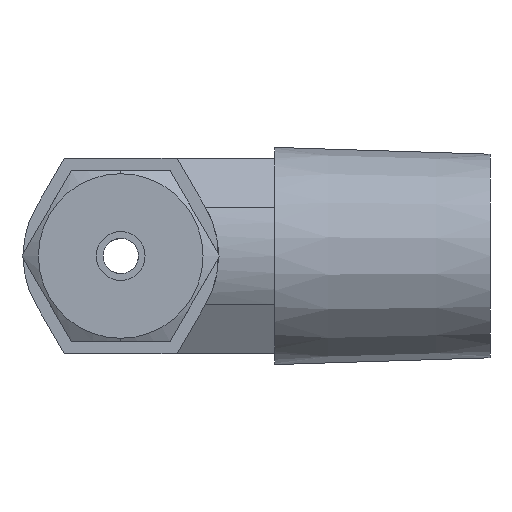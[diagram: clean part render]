
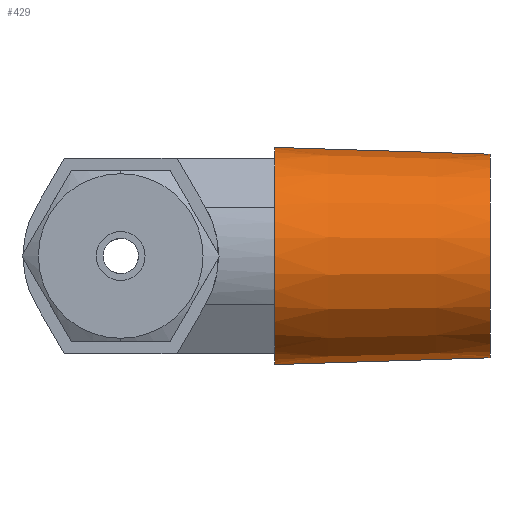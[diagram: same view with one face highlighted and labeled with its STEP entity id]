
A CAD part, left-side view. The second image highlights one B-rep face of the part: STEP entity #429.
In plain terms, the highlighted conical face has half-angle 1.8 degrees and reference radius 6.8 mm.
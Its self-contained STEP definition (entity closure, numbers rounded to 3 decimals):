
#325 = EDGE_CURVE ( 'NONE', #385, #589, #1299, .T. ) ;
#374 = ORIENTED_EDGE ( 'NONE', *, *, #375, .F. ) ;
#375 = EDGE_CURVE ( 'NONE', #431, #376, #1368, .T. ) ;
#376 = VERTEX_POINT ( 'NONE', #1420 ) ;
#377 = ORIENTED_EDGE ( 'NONE', *, *, #378, .T. ) ;
#378 = EDGE_CURVE ( 'NONE', #431, #379, #1419, .T. ) ;
#379 = VERTEX_POINT ( 'NONE', #1415 ) ;
#380 = ORIENTED_EDGE ( 'NONE', *, *, #381, .T. ) ;
#381 = EDGE_CURVE ( 'NONE', #379, #382, #1414, .T. ) ;
#382 = VERTEX_POINT ( 'NONE', #1409 ) ;
#383 = ORIENTED_EDGE ( 'NONE', *, *, #384, .T. ) ;
#384 = EDGE_CURVE ( 'NONE', #382, #385, #1408, .T. ) ;
#385 = VERTEX_POINT ( 'NONE', #1403 ) ;
#386 = ORIENTED_EDGE ( 'NONE', *, *, #325, .T. ) ;
#429 = ADVANCED_FACE ( 'NONE', ( #1491 ), #1489, .T. ) ;
#430 = EDGE_LOOP ( 'NONE', ( #374, #377, #380, #383, #386, #590, #593, #596 ) ) ;
#431 = VERTEX_POINT ( 'NONE', #1490 ) ;
#589 = VERTEX_POINT ( 'NONE', #1880 ) ;
#590 = ORIENTED_EDGE ( 'NONE', *, *, #591, .T. ) ;
#591 = EDGE_CURVE ( 'NONE', #589, #592, #1879, .T. ) ;
#592 = VERTEX_POINT ( 'NONE', #1935 ) ;
#593 = ORIENTED_EDGE ( 'NONE', *, *, #594, .T. ) ;
#594 = EDGE_CURVE ( 'NONE', #592, #595, #1934, .T. ) ;
#595 = VERTEX_POINT ( 'NONE', #1929 ) ;
#596 = ORIENTED_EDGE ( 'NONE', *, *, #597, .F. ) ;
#597 = EDGE_CURVE ( 'NONE', #376, #595, #1928, .T. ) ;
#1295 = DIRECTION ( 'NONE',  ( 0., 0., -1. ) ) ;
#1296 = DIRECTION ( 'NONE',  ( 0., -1., 0. ) ) ;
#1297 = CARTESIAN_POINT ( 'NONE',  ( 0., -10., 0. ) ) ;
#1298 = AXIS2_PLACEMENT_3D ( 'NONE', #1297, #1296, #1295 ) ;
#1299 = CIRCLE ( 'NONE', #1298, 7.058 ) ;
#1365 = DIRECTION ( 'NONE',  ( 0., -1., 0. ) ) ;
#1366 = CARTESIAN_POINT ( 'NONE',  ( 0., -24., 0. ) ) ;
#1367 = AXIS2_PLACEMENT_3D ( 'NONE', #1366, #1365, #1421 ) ;
#1368 = CIRCLE ( 'NONE', #1367, 6.618 ) ;
#1403 = CARTESIAN_POINT ( 'NONE',  ( -3.959, -10., 5.843 ) ) ;
#1404 = DIRECTION ( 'NONE',  ( 0., 0., -1. ) ) ;
#1405 = DIRECTION ( 'NONE',  ( 0., -1., 0. ) ) ;
#1406 = CARTESIAN_POINT ( 'NONE',  ( 0., -10., 0. ) ) ;
#1407 = AXIS2_PLACEMENT_3D ( 'NONE', #1406, #1405, #1404 ) ;
#1408 = CIRCLE ( 'NONE', #1407, 7.058 ) ;
#1409 = CARTESIAN_POINT ( 'NONE',  ( -3.081, -10., 6.35 ) ) ;
#1410 = DIRECTION ( 'NONE',  ( 0., 0., -1. ) ) ;
#1411 = DIRECTION ( 'NONE',  ( 0., -1., 0. ) ) ;
#1412 = CARTESIAN_POINT ( 'NONE',  ( 0., -10., 0. ) ) ;
#1413 = AXIS2_PLACEMENT_3D ( 'NONE', #1412, #1411, #1410 ) ;
#1414 = CIRCLE ( 'NONE', #1413, 7.058 ) ;
#1415 = CARTESIAN_POINT ( 'NONE',  ( 0., -10., 7.058 ) ) ;
#1416 = DIRECTION ( 'NONE',  ( 0., 1., 0.031 ) ) ;
#1417 = VECTOR ( 'NONE', #1416, 1000. ) ;
#1418 = CARTESIAN_POINT ( 'NONE',  ( 0., -18.21, 6.8 ) ) ;
#1419 = LINE ( 'NONE', #1418, #1417 ) ;
#1420 = CARTESIAN_POINT ( 'NONE',  ( 0., -24., -6.618 ) ) ;
#1421 = DIRECTION ( 'NONE',  ( 0., 0., -1. ) ) ;
#1485 = DIRECTION ( 'NONE',  ( 0., 0., -1. ) ) ;
#1486 = DIRECTION ( 'NONE',  ( 0., 1., 0. ) ) ;
#1487 = CARTESIAN_POINT ( 'NONE',  ( 0., -18.21, 0. ) ) ;
#1488 = AXIS2_PLACEMENT_3D ( 'NONE', #1487, #1486, #1485 ) ;
#1489 = CONICAL_SURFACE ( 'NONE', #1488, 6.8, 0.031 ) ;
#1490 = CARTESIAN_POINT ( 'NONE',  ( 0., -24., 6.618 ) ) ;
#1491 = FACE_OUTER_BOUND ( 'NONE', #430, .T. ) ;
#1879 = CIRCLE ( 'NONE', #1939, 7.058 ) ;
#1880 = CARTESIAN_POINT ( 'NONE',  ( -3.959, -10., -5.843 ) ) ;
#1925 = DIRECTION ( 'NONE',  ( 0., 1., -0.031 ) ) ;
#1926 = VECTOR ( 'NONE', #1925, 1000. ) ;
#1927 = CARTESIAN_POINT ( 'NONE',  ( 0., -18.21, -6.8 ) ) ;
#1928 = LINE ( 'NONE', #1927, #1926 ) ;
#1929 = CARTESIAN_POINT ( 'NONE',  ( 0., -10., -7.058 ) ) ;
#1930 = DIRECTION ( 'NONE',  ( 0., 0., -1. ) ) ;
#1931 = DIRECTION ( 'NONE',  ( 0., -1., 0. ) ) ;
#1932 = CARTESIAN_POINT ( 'NONE',  ( 0., -10., 0. ) ) ;
#1933 = AXIS2_PLACEMENT_3D ( 'NONE', #1932, #1931, #1930 ) ;
#1934 = CIRCLE ( 'NONE', #1933, 7.058 ) ;
#1935 = CARTESIAN_POINT ( 'NONE',  ( -3.081, -10., -6.35 ) ) ;
#1936 = DIRECTION ( 'NONE',  ( 0., 0., -1. ) ) ;
#1937 = DIRECTION ( 'NONE',  ( 0., -1., 0. ) ) ;
#1938 = CARTESIAN_POINT ( 'NONE',  ( 0., -10., 0. ) ) ;
#1939 = AXIS2_PLACEMENT_3D ( 'NONE', #1938, #1937, #1936 ) ;
